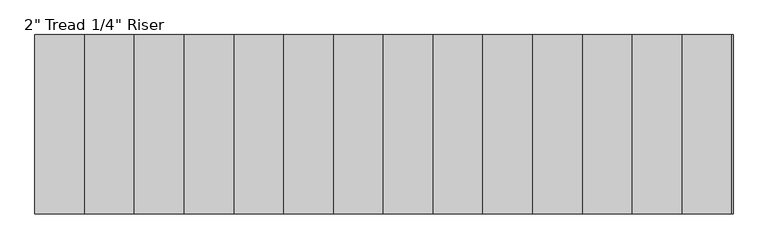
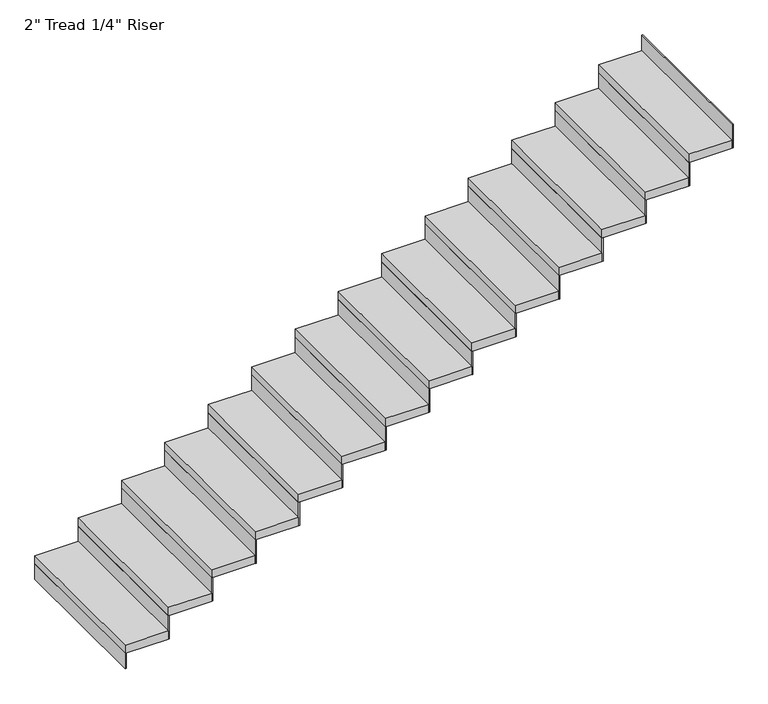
"""IFC4 building model written with IfcOpenShell, lengths in millimetres: stair flight geometry."""

import ifcopenshell
import ifcopenshell.guid

model = None  # the IFC model being written
_history = None  # IfcOwnerHistory: only IFC2X3 demands one
_inside = {}  # id of a spatial element -> (the spatial element, [elements in it])
_under = {}  # id of a project, library or spatial element -> (it, [spatial elements below it])
_declared = {}  # id of a project -> (the project, [libraries it declares])
_typed = {}  # id of a type object -> (the type object, [elements of that type])
_made_of = {}  # id of a material, layer set ... -> (it, [elements and type objects made of it])


def new_model(schema):
    """Start an empty IFC model of exactly this schema.

    Asked for "IFC4X3", IfcOpenShell would pick the latest addendum, in which some entities
    have other attributes; the version numbers below select the first issue.
    IFC2X3 requires an IfcOwnerHistory on every rooted entity: one is made here for all.
    """
    global model, _history
    if schema == "IFC4X3":
        model = ifcopenshell.file(schema_version=(4, 3, 0, 0))
    else:
        model = ifcopenshell.file(schema=schema)
    _inside.clear()
    _under.clear()
    _declared.clear()
    _typed.clear()
    _made_of.clear()
    _history = None
    if model.schema == "IFC2X3":
        org = make("IfcOrganization", Name="unknown")
        user = make(
            "IfcPersonAndOrganization",
            ThePerson=make("IfcPerson", FamilyName="unknown"),
            TheOrganization=org,
        )
        app = make(
            "IfcApplication",
            ApplicationDeveloper=org,
            Version="unknown",
            ApplicationFullName="unknown",
            ApplicationIdentifier="unknown",
        )
        _history = make(
            "IfcOwnerHistory",
            OwningUser=user,
            OwningApplication=app,
            ChangeAction="ADDED",
            CreationDate=0,
        )
    return model


def make(cls, **values):
    """One entity of the class cls with the attributes given. An attribute that is None is left unset."""
    return model.create_entity(
        cls, **{name: value for name, value in values.items() if value is not None}
    )


def rooted(cls, **values):
    """An entity with a GlobalId (a new one), such as an element, a storey or a relation."""
    return make(cls, GlobalId=ifcopenshell.guid.new(), OwnerHistory=_history, **values)


def si_unit(unit_type, name, prefix=None):
    """IfcSIUnit, for example si_unit("LENGTHUNIT", "METRE", prefix="MILLI")."""
    return make("IfcSIUnit", UnitType=unit_type, Prefix=prefix, Name=name)


def assignment(units):
    """IfcUnitAssignment: the units of a project."""
    return None if units is None else make("IfcUnitAssignment", Units=units)


def point(xyz):
    """IfcCartesianPoint."""
    return None if xyz is None else make("IfcCartesianPoint", Coordinates=xyz)


def direction(xyz):
    """IfcDirection."""
    return None if xyz is None else make("IfcDirection", DirectionRatios=xyz)


def frame(location, z_axis=None, x_axis=None):
    """IfcAxis2Placement3D, a coordinate frame: its origin and axes. An axis left out is left unset."""
    return make(
        "IfcAxis2Placement3D",
        Location=point(location),
        Axis=direction(z_axis),
        RefDirection=direction(x_axis),
    )


def origin():
    """The frame at (0, 0, 0) with its axes left unset."""
    return frame((0.0, 0.0, 0.0))


def origin_with_axes():
    """The frame at (0, 0, 0) with the z axis (0, 0, 1) and the x axis (1, 0, 0) written out."""
    return frame((0.0, 0.0, 0.0), z_axis=(0.0, 0.0, 1.0), x_axis=(1.0, 0.0, 0.0))


def place(relative_to, where):
    """IfcLocalPlacement: puts the frame where relative to a parent placement (None: the world)."""
    return make(
        "IfcLocalPlacement", PlacementRelTo=relative_to, RelativePlacement=where
    )


def context(
    kind, dimensions, precision=None, world=None, true_north=None, identifier=None
):
    """IfcGeometricRepresentationContext, for example the 3D "Model" context."""
    return make(
        "IfcGeometricRepresentationContext",
        ContextIdentifier=identifier,
        ContextType=kind,
        CoordinateSpaceDimension=dimensions,
        Precision=precision,
        WorldCoordinateSystem=world,
        TrueNorth=true_north,
    )


def project(units=None, contexts=None):
    """IfcProject with its units and contexts."""
    return rooted(
        "IfcProject",
        Name="project",
        RepresentationContexts=contexts,
        UnitsInContext=assignment(units),
    )


def spatial(cls, under=None, at=None, **own):
    """A site, building, storey or space (cls), placed at a placement, below another one or the project."""
    s = rooted(cls, ObjectPlacement=at, **own)
    if under is not None:
        _under.setdefault(under.id(), (under, []))[1].append(s)
    return s


def polyline(points):
    """IfcPolyline through the points."""
    return make("IfcPolyline", Points=[point(p) for p in points])


def outline(outer, holes=None, kind="AREA"):
    """IfcArbitraryClosedProfileDef: a profile drawn as a closed curve; with holes, ...WithVoids."""
    if holes is None:
        return make("IfcArbitraryClosedProfileDef", ProfileType=kind, OuterCurve=outer)
    return make(
        "IfcArbitraryProfileDefWithVoids",
        ProfileType=kind,
        OuterCurve=outer,
        InnerCurves=holes,
    )


def extrude(swept, where, along, depth):
    """IfcExtrudedAreaSolid: the profile swept, set in the frame where, extruded along a direction by depth."""
    return make(
        "IfcExtrudedAreaSolid",
        SweptArea=swept,
        Position=where,
        ExtrudedDirection=direction(along),
        Depth=depth,
    )


def shape(context_of_items, identifier, shape_type, items):
    """IfcShapeRepresentation: the items that make up one representation, for example the "Body"."""
    return make(
        "IfcShapeRepresentation",
        ContextOfItems=context_of_items,
        RepresentationIdentifier=identifier,
        RepresentationType=shape_type,
        Items=items,
    )


def source(mapping_origin, context_of_items, identifier, shape_type, items):
    """IfcRepresentationMap: a shape defined once, which mapped items show again and again."""
    return make(
        "IfcRepresentationMap",
        MappingOrigin=mapping_origin,
        MappedRepresentation=shape(context_of_items, identifier, shape_type, items),
    )


def transform(
    local_origin,
    x_axis=None,
    y_axis=None,
    z_axis=None,
    scale=None,
    scale2=None,
    scale3=None,
    uniform=True,
):
    """IfcCartesianTransformationOperator3D, or its non-uniform kind. x_axis, y_axis, z_axis: its Axis1, 2, 3."""
    if uniform:
        return make(
            "IfcCartesianTransformationOperator3D",
            Axis1=direction(x_axis),
            Axis2=direction(y_axis),
            LocalOrigin=point(local_origin),
            Scale=scale,
            Axis3=direction(z_axis),
        )
    return make(
        "IfcCartesianTransformationOperator3DnonUniform",
        Axis1=direction(x_axis),
        Axis2=direction(y_axis),
        LocalOrigin=point(local_origin),
        Scale=scale,
        Axis3=direction(z_axis),
        Scale2=scale2,
        Scale3=scale3,
    )


def mapped(mapping_source, mapping_target):
    """IfcMappedItem: shows the shape of a source again, moved by a transform."""
    return make(
        "IfcMappedItem", MappingSource=mapping_source, MappingTarget=mapping_target
    )


def made_of(thing, what):
    """Note that an element or type object is made of a material, layer set ...; save() writes the relation."""
    if what is not None:
        _made_of.setdefault(what.id(), (what, []))[1].append(thing)
    return thing


def element(
    cls,
    number,
    at=None,
    inside=None,
    cuts=None,
    type_object=None,
    material=None,
    context=None,
    identifier="Body",
    shape_type=None,
    held_by="IfcProductDefinitionShape",
    body=None,
    shapes=None,
    **own,
):
    """One element of the class cls, such as IfcWall. Its Tag is "e" and its number.

    at: its placement. inside: the storey or other place that contains it. cuts: it is an
    opening in that element (IfcRelVoidsElement). A single representation is given by context,
    identifier, shape_type and body (its items); several are given by shapes. held_by: the class
    of the entity that holds the representations. save() writes the other relations.
    """
    e = rooted(cls, Tag="e%d" % number, ObjectPlacement=at, **own)
    if body is not None:
        shapes = [shape(context, identifier, shape_type, body)]
    if shapes is not None:
        e.Representation = make(held_by, Representations=shapes)
    if inside is not None:
        _inside.setdefault(inside.id(), (inside, []))[1].append(e)
    if cuts is not None:
        rooted(
            "IfcRelVoidsElement", RelatingBuildingElement=cuts, RelatedOpeningElement=e
        )
    if type_object is not None:
        _typed.setdefault(type_object.id(), (type_object, []))[1].append(e)
    return made_of(e, material)


def aggregate(whole, parts):
    """IfcRelAggregates: a whole, such as a stair, and the parts it consists of."""
    return rooted("IfcRelAggregates", RelatingObject=whole, RelatedObjects=parts)


def save(model, path):
    """Write the relations noted so far, then the file.

    IfcRelAggregates (storeys below a building ...), IfcRelContainedInSpatialStructure (elements
    in a storey), IfcRelDefinesByType, IfcRelAssociatesMaterial and IfcRelDeclares: one each for
    every whole, place, type object, material and project.
    """
    for whole, parts in _under.values():
        aggregate(whole, parts)
    for where, things in _inside.values():
        rooted(
            "IfcRelContainedInSpatialStructure",
            RelatedElements=things,
            RelatingStructure=where,
        )
    for kind, things in _typed.values():
        rooted("IfcRelDefinesByType", RelatedObjects=things, RelatingType=kind)
    for what, things in _made_of.values():
        rooted("IfcRelAssociatesMaterial", RelatedObjects=things, RelatingMaterial=what)
    for by, libraries in _declared.values():
        rooted("IfcRelDeclares", RelatingContext=by, RelatedDefinitions=libraries)
    model.write(path)


def stair_flight_6e80d798(model_context):
    return source(origin(), model_context, "Body", "SweptSolid", [
        extrude(outline(polyline([(84202.5548368, 15846.0395941), (84196.2048368, 15846.0395941), (84196.2048368, 16760.4395941), (84202.5548368, 16760.4395941), (84202.5548368, 15846.0395941)])), origin_with_axes(), (0.0, 0.0, 1.0), 94.3428571),
        extrude(outline(polyline([(84450.2048368, 16760.4395941), (84450.2048368, 15846.0395941), (84196.2048368, 15846.0395941), (84196.2048368, 16760.4395941), (84450.2048368, 16760.4395941)])), frame((0.0, 0.0, 94.3428571), z_axis=(0.0, 0.0, 1.0), x_axis=(1.0, 0.0, 0.0)), (0.0, 0.0, 1.0), 50.8),
        extrude(outline(polyline([(84456.5548368, 15846.0395941), (84450.2048368, 15846.0395941), (84450.2048368, 16760.4395941), (84456.5548368, 16760.4395941), (84456.5548368, 15846.0395941)])), frame((0.0, 0.0, 94.3428571), z_axis=(0.0, 0.0, 1.0), x_axis=(1.0, 0.0, 0.0)), (0.0, 0.0, 1.0), 145.1428571),
        extrude(outline(polyline([(84704.2048368, 16760.4395941), (84704.2048368, 15846.0395941), (84450.2048368, 15846.0395941), (84450.2048368, 16760.4395941), (84704.2048368, 16760.4395941)])), frame((0.0, 0.0, 239.4857143), z_axis=(0.0, 0.0, 1.0), x_axis=(1.0, 0.0, 0.0)), (0.0, 0.0, 1.0), 50.8),
        extrude(outline(polyline([(84710.5548368, 15846.0395941), (84704.2048368, 15846.0395941), (84704.2048368, 16760.4395941), (84710.5548368, 16760.4395941), (84710.5548368, 15846.0395941)])), frame((0.0, 0.0, 239.4857143), z_axis=(0.0, 0.0, 1.0), x_axis=(1.0, 0.0, 0.0)), (0.0, 0.0, 1.0), 145.1428571),
        extrude(outline(polyline([(84958.2048368, 16760.4395941), (84958.2048368, 15846.0395941), (84704.2048368, 15846.0395941), (84704.2048368, 16760.4395941), (84958.2048368, 16760.4395941)])), frame((0.0, 0.0, 384.6285714), z_axis=(0.0, 0.0, 1.0), x_axis=(1.0, 0.0, 0.0)), (0.0, 0.0, 1.0), 50.8),
        extrude(outline(polyline([(84964.5548368, 15846.0395941), (84958.2048368, 15846.0395941), (84958.2048368, 16760.4395941), (84964.5548368, 16760.4395941), (84964.5548368, 15846.0395941)])), frame((0.0, 0.0, 384.6285714), z_axis=(0.0, 0.0, 1.0), x_axis=(1.0, 0.0, 0.0)), (0.0, 0.0, 1.0), 145.1428571),
        extrude(outline(polyline([(85212.2048368, 16760.4395941), (85212.2048368, 15846.0395941), (84958.2048368, 15846.0395941), (84958.2048368, 16760.4395941), (85212.2048368, 16760.4395941)])), frame((0.0, 0.0, 529.7714286), z_axis=(0.0, 0.0, 1.0), x_axis=(1.0, 0.0, 0.0)), (0.0, 0.0, 1.0), 50.8),
        extrude(outline(polyline([(85218.5548368, 15846.0395941), (85212.2048368, 15846.0395941), (85212.2048368, 16760.4395941), (85218.5548368, 16760.4395941), (85218.5548368, 15846.0395941)])), frame((0.0, 0.0, 529.7714286), z_axis=(0.0, 0.0, 1.0), x_axis=(1.0, 0.0, 0.0)), (0.0, 0.0, 1.0), 145.1428571),
        extrude(outline(polyline([(85466.2048368, 16760.4395941), (85466.2048368, 15846.0395941), (85212.2048368, 15846.0395941), (85212.2048368, 16760.4395941), (85466.2048368, 16760.4395941)])), frame((0.0, 0.0, 674.9142857), z_axis=(0.0, 0.0, 1.0), x_axis=(1.0, 0.0, 0.0)), (0.0, 0.0, 1.0), 50.8),
        extrude(outline(polyline([(85472.5548368, 15846.0395941), (85466.2048368, 15846.0395941), (85466.2048368, 16760.4395941), (85472.5548368, 16760.4395941), (85472.5548368, 15846.0395941)])), frame((0.0, 0.0, 674.9142857), z_axis=(0.0, 0.0, 1.0), x_axis=(1.0, 0.0, 0.0)), (0.0, 0.0, 1.0), 145.1428571),
        extrude(outline(polyline([(85720.2048368, 16760.4395941), (85720.2048368, 15846.0395941), (85466.2048368, 15846.0395941), (85466.2048368, 16760.4395941), (85720.2048368, 16760.4395941)])), frame((0.0, 0.0, 820.0571429), z_axis=(0.0, 0.0, 1.0), x_axis=(1.0, 0.0, 0.0)), (0.0, 0.0, 1.0), 50.8),
        extrude(outline(polyline([(85726.5548368, 15846.0395941), (85720.2048368, 15846.0395941), (85720.2048368, 16760.4395941), (85726.5548368, 16760.4395941), (85726.5548368, 15846.0395941)])), frame((0.0, 0.0, 820.0571429), z_axis=(0.0, 0.0, 1.0), x_axis=(1.0, 0.0, 0.0)), (0.0, 0.0, 1.0), 145.1428571),
        extrude(outline(polyline([(85974.2048368, 16760.4395941), (85974.2048368, 15846.0395941), (85720.2048368, 15846.0395941), (85720.2048368, 16760.4395941), (85974.2048368, 16760.4395941)])), frame((0.0, 0.0, 965.2), z_axis=(0.0, 0.0, 1.0), x_axis=(1.0, 0.0, 0.0)), (0.0, 0.0, 1.0), 50.8),
        extrude(outline(polyline([(85980.5548368, 15846.0395941), (85974.2048368, 15846.0395941), (85974.2048368, 16760.4395941), (85980.5548368, 16760.4395941), (85980.5548368, 15846.0395941)])), frame((0.0, 0.0, 965.2), z_axis=(0.0, 0.0, 1.0), x_axis=(1.0, 0.0, 0.0)), (0.0, 0.0, 1.0), 145.1428571),
        extrude(outline(polyline([(86228.2048368, 16760.4395941), (86228.2048368, 15846.0395941), (85974.2048368, 15846.0395941), (85974.2048368, 16760.4395941), (86228.2048368, 16760.4395941)])), frame((0.0, 0.0, 1110.3428571), z_axis=(0.0, 0.0, 1.0), x_axis=(1.0, 0.0, 0.0)), (0.0, 0.0, 1.0), 50.8),
        extrude(outline(polyline([(86234.5548368, 15846.0395941), (86228.2048368, 15846.0395941), (86228.2048368, 16760.4395941), (86234.5548368, 16760.4395941), (86234.5548368, 15846.0395941)])), frame((0.0, 0.0, 1110.3428571), z_axis=(0.0, 0.0, 1.0), x_axis=(1.0, 0.0, 0.0)), (0.0, 0.0, 1.0), 145.1428571),
        extrude(outline(polyline([(86482.2048368, 16760.4395941), (86482.2048368, 15846.0395941), (86228.2048368, 15846.0395941), (86228.2048368, 16760.4395941), (86482.2048368, 16760.4395941)])), frame((0.0, 0.0, 1255.4857143), z_axis=(0.0, 0.0, 1.0), x_axis=(1.0, 0.0, 0.0)), (0.0, 0.0, 1.0), 50.8),
        extrude(outline(polyline([(86488.5548368, 15846.0395941), (86482.2048368, 15846.0395941), (86482.2048368, 16760.4395941), (86488.5548368, 16760.4395941), (86488.5548368, 15846.0395941)])), frame((0.0, 0.0, 1255.4857143), z_axis=(0.0, 0.0, 1.0), x_axis=(1.0, 0.0, 0.0)), (0.0, 0.0, 1.0), 145.1428571),
        extrude(outline(polyline([(86736.2048368, 16760.4395941), (86736.2048368, 15846.0395941), (86482.2048368, 15846.0395941), (86482.2048368, 16760.4395941), (86736.2048368, 16760.4395941)])), frame((0.0, 0.0, 1400.6285714), z_axis=(0.0, 0.0, 1.0), x_axis=(1.0, 0.0, 0.0)), (0.0, 0.0, 1.0), 50.8),
        extrude(outline(polyline([(86742.5548368, 15846.0395941), (86736.2048368, 15846.0395941), (86736.2048368, 16760.4395941), (86742.5548368, 16760.4395941), (86742.5548368, 15846.0395941)])), frame((0.0, 0.0, 1400.6285714), z_axis=(0.0, 0.0, 1.0), x_axis=(1.0, 0.0, 0.0)), (0.0, 0.0, 1.0), 145.1428571),
        extrude(outline(polyline([(86990.2048368, 16760.4395941), (86990.2048368, 15846.0395941), (86736.2048368, 15846.0395941), (86736.2048368, 16760.4395941), (86990.2048368, 16760.4395941)])), frame((0.0, 0.0, 1545.7714286), z_axis=(0.0, 0.0, 1.0), x_axis=(1.0, 0.0, 0.0)), (0.0, 0.0, 1.0), 50.8),
        extrude(outline(polyline([(86996.5548368, 15846.0395941), (86990.2048368, 15846.0395941), (86990.2048368, 16760.4395941), (86996.5548368, 16760.4395941), (86996.5548368, 15846.0395941)])), frame((0.0, 0.0, 1545.7714286), z_axis=(0.0, 0.0, 1.0), x_axis=(1.0, 0.0, 0.0)), (0.0, 0.0, 1.0), 145.1428571),
        extrude(outline(polyline([(87244.2048368, 16760.4395941), (87244.2048368, 15846.0395941), (86990.2048368, 15846.0395941), (86990.2048368, 16760.4395941), (87244.2048368, 16760.4395941)])), frame((0.0, 0.0, 1690.9142857), z_axis=(0.0, 0.0, 1.0), x_axis=(1.0, 0.0, 0.0)), (0.0, 0.0, 1.0), 50.8),
        extrude(outline(polyline([(87250.5548368, 15846.0395941), (87244.2048368, 15846.0395941), (87244.2048368, 16760.4395941), (87250.5548368, 16760.4395941), (87250.5548368, 15846.0395941)])), frame((0.0, 0.0, 1690.9142857), z_axis=(0.0, 0.0, 1.0), x_axis=(1.0, 0.0, 0.0)), (0.0, 0.0, 1.0), 145.1428571),
        extrude(outline(polyline([(87498.2048368, 16760.4395941), (87498.2048368, 15846.0395941), (87244.2048368, 15846.0395941), (87244.2048368, 16760.4395941), (87498.2048368, 16760.4395941)])), frame((0.0, 0.0, 1836.0571429), z_axis=(0.0, 0.0, 1.0), x_axis=(1.0, 0.0, 0.0)), (0.0, 0.0, 1.0), 50.8),
        extrude(outline(polyline([(87504.5548368, 15846.0395941), (87498.2048368, 15846.0395941), (87498.2048368, 16760.4395941), (87504.5548368, 16760.4395941), (87504.5548368, 15846.0395941)])), frame((0.0, 0.0, 1836.0571429), z_axis=(0.0, 0.0, 1.0), x_axis=(1.0, 0.0, 0.0)), (0.0, 0.0, 1.0), 145.1428571),
        extrude(outline(polyline([(87758.5548368, 15846.0395941), (87752.2048368, 15846.0395941), (87752.2048368, 16760.4395941), (87758.5548368, 16760.4395941), (87758.5548368, 15846.0395941)])), frame((0.0, 0.0, 1981.2), z_axis=(0.0, 0.0, 1.0), x_axis=(1.0, 0.0, 0.0)), (0.0, 0.0, 1.0), 145.1428571),
        extrude(outline(polyline([(87752.2048368, 16760.4395941), (87752.2048368, 15846.0395941), (87498.2048368, 15846.0395941), (87498.2048368, 16760.4395941), (87752.2048368, 16760.4395941)])), frame((0.0, 0.0, 1981.2), z_axis=(0.0, 0.0, 1.0), x_axis=(1.0, 0.0, 0.0)), (0.0, 0.0, 1.0), 50.8),
    ])


if __name__ == "__main__":
    model = new_model("IFC4")
    model_context = context("Model", 3, world=origin())
    ifc_project = project(units=[si_unit("LENGTHUNIT", "METRE", prefix="MILLI")], contexts=[model_context])
    site = spatial("IfcSite", under=ifc_project)
    building = spatial("IfcBuilding", under=site)
    placement = place(None, origin())
    stair_flight_shape = stair_flight_6e80d798(model_context)
    element("IfcStairFlight", 1, ObjectType="2\" Tread 1/4\" Riser", at=placement, inside=building, context=model_context, shape_type="MappedRepresentation", body=[
        mapped(stair_flight_shape, transform((0.0, 0.0, 0.0), x_axis=(1.0, 0.0, 0.0), y_axis=(0.0, 1.0, 0.0), z_axis=(0.0, 0.0, 1.0))),
    ])
    save(model, "model.ifc")
